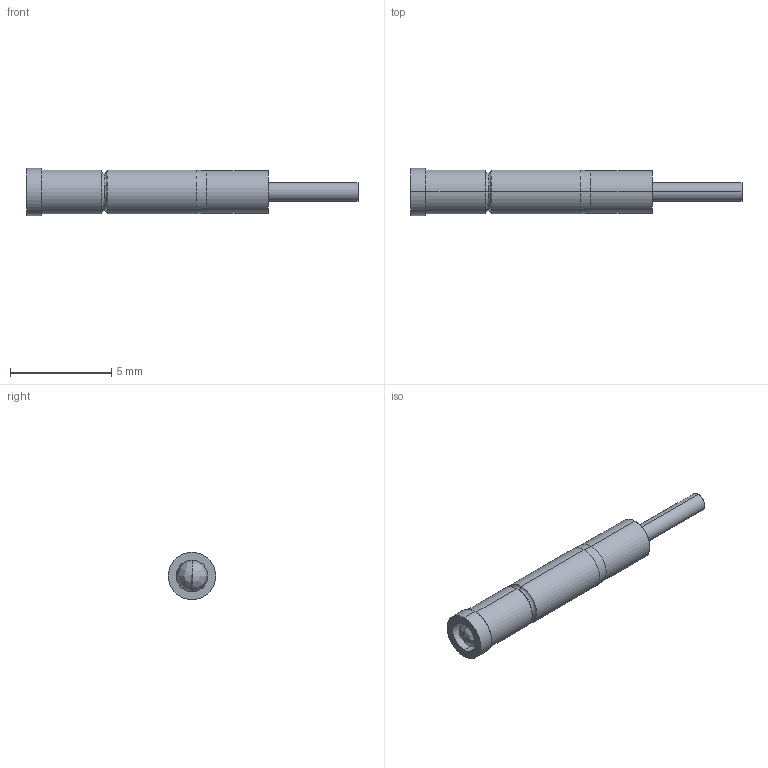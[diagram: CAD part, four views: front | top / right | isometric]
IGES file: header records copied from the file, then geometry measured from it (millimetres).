
Start section: SolidWorks IGES file using analytic representation for surfaces
Global section: file name: O:\PYLON\IGES FILES\P3325\P3325-0 FULL.IGS; native system: SolidWorks 2015; preprocessor: SolidWorks 2015; author: kgolden; date: 171020.080642; units: inch
Bounding box: 16.38 x 2.34 x 2.34 mm (x, y, z)
Surface area: 111 mm2 (no closed solid volume)
Topology: 0 solids, 0 shells, 29 faces, 296 edges, 294 vertices
Faces by surface type: revolution 18, bspline 11
